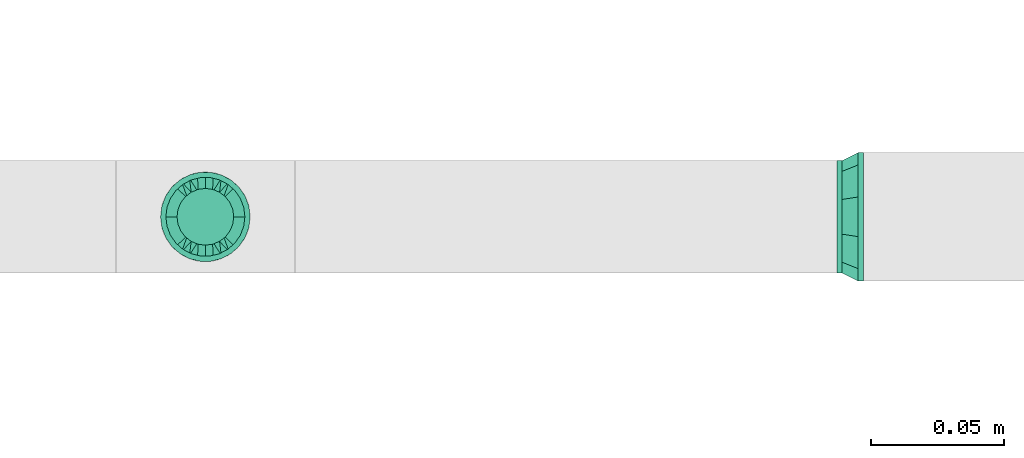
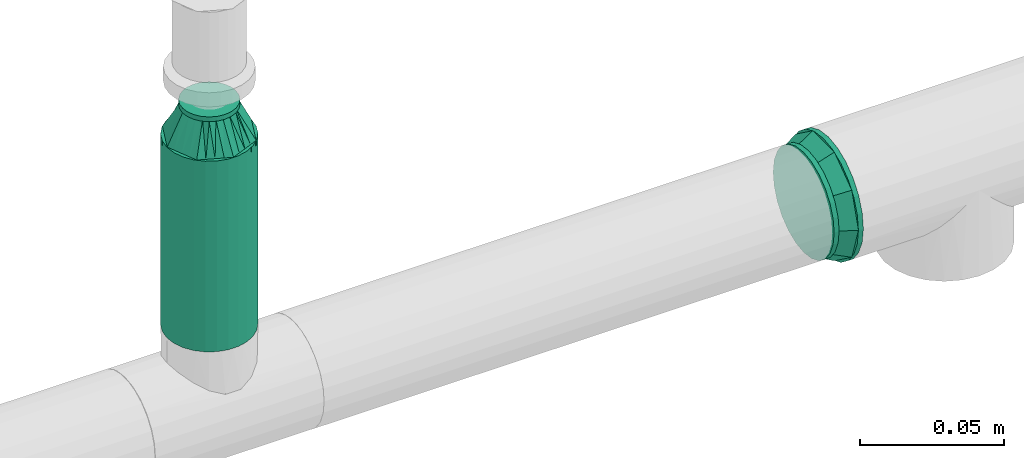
# One storey, part 72 of 94: 2 flow fittings, 1 flow segment.
"""IFC2X3 building model written with IfcOpenShell, lengths in millimetres."""

from ifc_helpers import new_model, entity, si_unit, converted_unit, derived_unit, direction, frame, origin_with_axes, origin_2d_with_axis, place, context, subcontext, project, spatial, hollow_circle, extrude, open_shell, surface_model, source, transform, mapped, type_object, element, save


model = new_model("IFC2X3")

# Units and contexts
model_context = context("Model", 3, precision=0.01, world=frame((0.0, 4.29681676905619e-09, 0.0)), true_north=direction((4.01073788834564e-13, 1.0)))
plan_context = context("Plan", 3, precision=0.01, world=frame((0.0, 4.29681676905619e-09, 0.0)), true_north=direction((4.01073788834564e-13, 1.0)))
body_context = subcontext(model_context, "Body", "Model", "MODEL_VIEW")
ifc_project = project(units=[converted_unit("PLANEANGLEUNIT", "DEGREE", entity("IfcPositiveLengthMeasure", 0.0174532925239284), si_unit("PLANEANGLEUNIT", "RADIAN"), dimensions=[0, 0, 0, 0, 0, 0, 0]), si_unit("AREAUNIT", "SQUARE_METRE"), si_unit("LENGTHUNIT", "METRE", prefix="MILLI"), si_unit("MASSUNIT", "GRAM", prefix="KILO"), si_unit("POWERUNIT", "WATT"), si_unit("PRESSUREUNIT", "PASCAL"), si_unit("FORCEUNIT", "NEWTON", prefix="KILO"), si_unit("ELECTRICCURRENTUNIT", "AMPERE"), si_unit("THERMODYNAMICTEMPERATUREUNIT", "DEGREE_CELSIUS"), si_unit("TIMEUNIT", "SECOND"), si_unit("VOLUMEUNIT", "CUBIC_METRE"), derived_unit("LINEARVELOCITYUNIT", [(si_unit("LENGTHUNIT", "METRE"), 1), (si_unit("TIMEUNIT", "SECOND"), -1)]), derived_unit("VOLUMETRICFLOWRATEUNIT", [(si_unit("VOLUMEUNIT", "CUBIC_METRE"), 1), (si_unit("TIMEUNIT", "SECOND"), -1)]), derived_unit("THERMALTRANSMITTANCEUNIT", [(si_unit("POWERUNIT", "WATT"), 1), (si_unit("THERMODYNAMICTEMPERATUREUNIT", "KELVIN"), -1), (si_unit("AREAUNIT", "SQUARE_METRE"), -1)])], contexts=[model_context, plan_context])

# Site, building, storey
site_placement = place(None, frame((0.0, -4.29681676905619e-09, 0.0), z_axis=(0.0, 0.0, 1.0), x_axis=(1.0, 0.0, 0.0)))
site = spatial("IfcSite", under=ifc_project, at=site_placement, CompositionType="ELEMENT")
building_placement = place(site_placement, frame((0.0, 4.29681676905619e-09, 0.0), z_axis=(0.0, 0.0, 1.0), x_axis=(1.0, 0.0, 0.0)))
building = spatial("IfcBuilding", under=site, at=building_placement, Name="mc-building", CompositionType="ELEMENT")
storey_placement = place(building_placement, frame((0.0, 0.0, 200300.0), z_axis=(0.0, 0.0, 1.0), x_axis=(1.0, 0.0, 0.0)))
storey = spatial("IfcBuildingStorey", under=building, at=storey_placement, Name="Nivå C", CompositionType="ELEMENT", Elevation=200300.0)

# Flow fittings
pipe_fitting_type = type_object("IfcPipeFittingType", Name="magi_pipe_fe_reducer_centric_short_NOR", PredefinedType="TRANSITION")
shared_shape_1 = source(origin_with_axes(), body_context, "Body", "SurfaceModel", [
    surface_model("IfcShellBasedSurfaceModel", [(14.4, 5.35, -9.26647), (14.4, 0.0, -10.7), (14.4, 2.76936, -10.33541), (14.4, 10.33541, -2.76936), (14.4, 7.56604, -7.56604), (14.4, -10.33541, -2.76936), (14.4, 9.26647, -5.35), (14.4, 0.0, 10.7), (14.4, -5.35, -9.26647), (14.4, -2.76936, -10.33541), (14.4, -7.56604, -7.56604), (14.4, -9.26647, -5.35), (14.4, 10.7, 0.0), (14.4, 10.33541, 2.76936), (14.4, 9.26647, 5.35), (14.4, 7.56604, 7.56604), (14.4, 2.76936, 10.33541), (14.4, 5.35, 9.26647), (14.4, -10.33541, 2.76936), (14.4, -7.56604, 7.56604), (14.4, -9.26647, 5.35), (14.4, -10.7, 0.0), (14.4, -2.76936, 10.33541), (14.4, -5.35, 9.26647), (12.4, 2.76936, 10.33541), (12.4, -10.33541, -2.76936), (12.4, 0.0, 10.7), (12.4, 5.35, 9.26647), (12.4, 7.56604, 7.56604), (12.4, 9.26647, 5.35), (12.4, 10.33541, 2.76936), (12.4, -10.33541, 2.76936), (12.4, -2.76936, 10.33541), (12.4, -7.56604, 7.56604), (12.4, -5.35, 9.26647), (12.4, -9.26647, 5.35), (12.4, -10.7, 0.0), (12.4, 10.33541, -2.76936), (12.4, 5.35, -9.26647), (12.4, 9.26647, -5.35), (12.4, 7.56604, -7.56604), (12.4, 2.76936, -10.33541), (12.4, -9.26647, -5.35), (12.4, -5.35, -9.26647), (12.4, -7.56604, -7.56604), (12.4, 0.0, -10.7), (12.4, -2.76936, -10.33541), (12.4, 10.7, 0.0), (-2.0, 11.9501, 11.9501), (-2.0, 0.0, 16.9), (-2.0, 4.37404, 16.32415), (-2.0, 8.45, 14.63583), (-2.0, 14.63583, 8.45), (-2.0, 16.32415, 4.37404), (-2.0, -16.32415, 4.37404), (-2.0, -8.45, 14.63583), (-2.0, -14.63583, 8.45), (-2.0, -11.9501, 11.9501), (-2.0, -4.37404, 16.32415), (-2.0, -16.32415, -4.37404), (-2.0, -16.9, 0.0), (-2.0, -8.45, -14.63583), (-2.0, 16.32415, -4.37404), (-2.0, 11.9501, -11.9501), (-2.0, 14.63583, -8.45), (-2.0, 8.45, -14.63583), (-2.0, 4.37404, -16.32415), (-2.0, 0.0, -16.9), (-2.0, -11.9501, -11.9501), (-2.0, -14.63583, -8.45), (-2.0, -4.37404, -16.32415), (-2.0, 16.9, 0.0), (0.0, 4.37404, -16.32415), (0.0, 8.45, -14.63583), (0.0, 11.9501, -11.9501), (0.0, 0.0, -16.9), (0.0, 16.32415, -4.37404), (0.0, 16.32415, 4.37404), (0.0, 14.63583, -8.45), (0.0, -8.45, -14.63583), (0.0, -4.37404, -16.32415), (0.0, -11.9501, -11.9501), (0.0, -16.32415, -4.37404), (0.0, -14.63583, -8.45), (0.0, -16.32415, 4.37404), (0.0, 16.9, 0.0), (0.0, 14.63583, 8.45), (0.0, 11.9501, 11.9501), (0.0, 4.37404, 16.32415), (0.0, 8.45, 14.63583), (0.0, 0.0, 16.9), (0.0, -14.63583, 8.45), (0.0, -16.9, 0.0), (0.0, -8.45, 14.63583), (0.0, -11.9501, 11.9501), (0.0, -4.37404, 16.32415), (12.4, 9.3625, -2.31662), (0.0, 14.42505, -5.97505), (0.0, 15.66253, -2.98753), (12.4, -6.6875, -6.94985), (0.0, -13.18758, -8.96258), (0.0, 2.98753, -15.66253), (12.4, 0.0, -9.26647), (12.4, 6.6875, -6.94985), (0.0, 8.96258, -13.18758), (12.4, -9.3625, -2.31662), (0.0, -15.66253, -2.98753), (0.0, -14.42505, -5.97505), (0.0, 5.97505, -14.42505), (0.0, -2.98753, -15.66253), (0.0, -8.96258, -13.18758), (0.0, 13.18758, -8.96258), (12.4, 8.025, -4.63324), (12.4, -2.675, -9.26647), (12.4, 2.675, -9.26647), (0.0, -5.97505, -14.42505), (12.4, -8.025, -4.63324), (12.4, -9.3625, 2.31662), (0.0, -14.42505, 5.97505), (0.0, -15.66253, 2.98753), (12.4, 6.6875, 6.94985), (0.0, 13.18758, 8.96258), (0.0, -2.98753, 15.66253), (12.4, 0.0, 9.26647), (12.4, -6.6875, 6.94985), (0.0, -8.96258, 13.18758), (12.4, 9.3625, 2.31662), (0.0, 15.66253, 2.98753), (0.0, 14.42505, 5.97505), (0.0, -5.97505, 14.42505), (0.0, 2.98753, 15.66253), (0.0, 8.96258, 13.18758), (0.0, -13.18758, 8.96258), (12.4, -8.025, 4.63324), (12.4, 2.675, 9.26647), (12.4, -2.675, 9.26647), (0.0, 5.97505, 14.42505), (12.4, 8.025, 4.63324)], [open_shell([[[0, 1, 2]], [[3, 0, 4]], [[5, 0, 3]], [[3, 4, 6]], [[7, 5, 3]], [[1, 8, 9]], [[1, 0, 8]], [[10, 5, 11]], [[5, 10, 8]], [[0, 5, 8]], [[3, 12, 13]], [[13, 14, 15]], [[13, 15, 16]], [[7, 3, 16]], [[16, 15, 17]], [[7, 18, 5]], [[18, 19, 20]], [[21, 5, 18]], [[19, 22, 23]], [[22, 19, 18]], [[7, 22, 18]], [[13, 16, 3]], [[24, 25, 26]], [[27, 25, 24]], [[28, 29, 30]], [[28, 25, 27]], [[31, 26, 25]], [[32, 33, 34]], [[33, 32, 31]], [[33, 31, 35]], [[32, 26, 31]], [[31, 25, 36]], [[30, 37, 28]], [[25, 28, 37]], [[38, 37, 39]], [[37, 38, 25]], [[38, 39, 40]], [[41, 25, 38]], [[42, 43, 44]], [[43, 42, 25]], [[43, 45, 46]], [[43, 25, 41]], [[41, 45, 43]], [[37, 30, 47]], [[25, 5, 36]], [[42, 11, 25]], [[8, 44, 43]], [[42, 44, 10]], [[9, 43, 46]], [[25, 11, 5]], [[5, 21, 36]], [[9, 8, 43]], [[10, 44, 8]], [[10, 11, 42]], [[1, 9, 46]], [[46, 45, 1]], [[41, 2, 45]], [[38, 0, 41]], [[6, 40, 39]], [[38, 40, 4]], [[3, 39, 37]], [[38, 4, 0]], [[0, 2, 41]], [[12, 3, 37]], [[6, 39, 3]], [[6, 4, 40]], [[47, 12, 37]], [[45, 2, 1]], [[30, 13, 47]], [[29, 14, 30]], [[17, 28, 27]], [[29, 28, 15]], [[16, 27, 24]], [[30, 14, 13]], [[13, 12, 47]], [[16, 17, 27]], [[15, 28, 17]], [[15, 14, 29]], [[7, 16, 24]], [[24, 26, 7]], [[32, 22, 26]], [[34, 23, 32]], [[20, 33, 35]], [[34, 33, 19]], [[18, 35, 31]], [[34, 19, 23]], [[23, 22, 32]], [[21, 18, 31]], [[20, 35, 18]], [[20, 19, 33]], [[36, 21, 31]], [[26, 22, 7]], [[48, 49, 50]], [[48, 50, 51]], [[48, 52, 53]], [[48, 53, 49]], [[49, 53, 54]], [[55, 56, 57]], [[55, 58, 49]], [[56, 55, 49]], [[49, 54, 56]], [[54, 59, 60]], [[54, 53, 61]], [[53, 62, 63]], [[63, 62, 64]], [[63, 65, 66]], [[61, 53, 63]], [[67, 63, 66]], [[59, 68, 69]], [[68, 59, 61]], [[61, 67, 70]], [[59, 54, 61]], [[63, 67, 61]], [[53, 71, 62]], [[72, 73, 74]], [[75, 72, 74]], [[74, 76, 77]], [[76, 74, 78]], [[74, 77, 79]], [[75, 79, 80]], [[75, 74, 79]], [[81, 82, 83]], [[82, 81, 79]], [[79, 84, 82]], [[77, 76, 85]], [[77, 86, 87]], [[77, 87, 88]], [[88, 84, 79]], [[88, 87, 89]], [[84, 88, 90]], [[90, 91, 84]], [[92, 82, 84]], [[91, 93, 94]], [[91, 90, 93]], [[93, 90, 95]], [[79, 77, 88]], [[59, 82, 60]], [[69, 83, 59]], [[79, 68, 61]], [[69, 68, 81]], [[80, 61, 70]], [[59, 83, 82]], [[82, 92, 60]], [[80, 79, 61]], [[81, 68, 79]], [[81, 83, 69]], [[75, 80, 70]], [[70, 67, 75]], [[66, 72, 67]], [[65, 73, 66]], [[78, 63, 64]], [[65, 63, 74]], [[76, 64, 62]], [[65, 74, 73]], [[73, 72, 66]], [[85, 76, 62]], [[78, 64, 76]], [[78, 74, 63]], [[71, 85, 62]], [[67, 72, 75]], [[53, 77, 71]], [[52, 86, 53]], [[89, 48, 51]], [[52, 48, 87]], [[88, 51, 50]], [[53, 86, 77]], [[77, 85, 71]], [[88, 89, 51]], [[87, 48, 89]], [[87, 86, 52]], [[90, 88, 50]], [[50, 49, 90]], [[58, 95, 49]], [[55, 93, 58]], [[91, 57, 56]], [[55, 57, 94]], [[84, 56, 54]], [[55, 94, 93]], [[93, 95, 58]], [[92, 84, 54]], [[91, 56, 84]], [[91, 94, 57]], [[60, 92, 54]], [[49, 95, 90]], [[27, 34, 47]], [[47, 34, 43]], [[43, 38, 47]], [[43, 34, 36]], [[90, 87, 94]], [[92, 94, 87]], [[87, 74, 92]], [[75, 92, 74]], [[81, 92, 75]], [[74, 87, 85]], [[96, 97, 98]], [[81, 99, 100]], [[101, 102, 75]], [[98, 85, 47]], [[74, 103, 104]], [[104, 103, 38]], [[105, 106, 107]], [[38, 108, 104]], [[102, 109, 75]], [[110, 99, 81]], [[47, 96, 98]], [[103, 111, 112]], [[109, 102, 113]], [[36, 92, 106]], [[102, 101, 114]], [[110, 115, 43]], [[96, 112, 97]], [[107, 116, 105]], [[36, 106, 105]], [[113, 115, 109]], [[43, 115, 113]], [[116, 107, 100]], [[108, 38, 114]], [[111, 103, 74]], [[111, 97, 112]], [[99, 110, 43]], [[116, 100, 99]], [[101, 108, 114]], [[117, 118, 119]], [[87, 120, 121]], [[122, 123, 90]], [[119, 92, 36]], [[94, 124, 125]], [[125, 124, 34]], [[126, 127, 128]], [[34, 129, 125]], [[123, 130, 90]], [[131, 120, 87]], [[36, 117, 119]], [[124, 132, 133]], [[130, 123, 134]], [[47, 85, 127]], [[123, 122, 135]], [[131, 136, 27]], [[117, 133, 118]], [[128, 137, 126]], [[47, 127, 126]], [[134, 136, 130]], [[27, 136, 134]], [[137, 128, 121]], [[129, 34, 135]], [[132, 124, 94]], [[132, 118, 133]], [[120, 131, 27]], [[137, 121, 120]], [[122, 129, 135]]])]),
])
flow_fitting_1_placement = place(storey_placement, frame((530500.33534, 410000.1625, 2962.64799999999), z_axis=(0.0, -1.0, 0.0), x_axis=(0.0, 0.0, 1.0)))
element("IfcFlowFitting", 1, at=flow_fitting_1_placement, inside=storey, type_object=pipe_fitting_type, Name="magi_pipe_fe_reducer_centric_short_NOR", context=body_context, shape_type="MappedRepresentation", body=[
    mapped(shared_shape_1, transform((0.0, 0.0, 0.0), scale=1.0)),
])
shared_shape_2 = source(origin_with_axes(), body_context, "Body", "SurfaceModel", [
    surface_model("IfcShellBasedSurfaceModel", [(-2.0, -10.6, -18.35974), (-2.0, 0.0, -21.2), (-2.0, -5.48696, -20.47763), (-2.0, 5.48696, -20.47763), (-2.0, 10.6, -18.35974), (-2.0, 0.0, 21.2), (-2.0, 5.48696, 20.47763), (-2.0, 10.6, 18.35974), (-2.0, 14.99066, 14.99066), (-2.0, 18.35974, 10.6), (-2.0, 20.47763, 5.48696), (-2.0, -21.2, 0.0), (-2.0, -14.99066, -14.99066), (-2.0, -5.48696, 20.47763), (-2.0, -14.99066, 14.99066), (-2.0, -10.6, 18.35974), (-2.0, -18.35974, 10.6), (-2.0, -20.47763, 5.48696), (-2.0, 20.47763, -5.48696), (-2.0, 14.99066, -14.99066), (-2.0, 18.35974, -10.6), (-2.0, -18.35974, -10.6), (-2.0, -20.47763, -5.48696), (-2.0, 21.2, 0.0), (0.0, 10.6, -18.35974), (0.0, 0.0, -21.2), (0.0, 5.48696, -20.47763), (0.0, 20.47763, -5.48696), (0.0, 14.99066, -14.99066), (0.0, -21.2, 0.0), (0.0, -14.99066, -14.99066), (0.0, 18.35974, -10.6), (0.0, -10.6, -18.35974), (0.0, -5.48696, -20.47763), (0.0, -18.35974, -10.6), (0.0, -20.47763, -5.48696), (0.0, -18.35974, 10.6), (0.0, 21.2, 0.0), (0.0, 20.47763, 5.48696), (0.0, 18.35974, 10.6), (0.0, 14.99066, 14.99066), (0.0, 0.0, 21.2), (0.0, 10.6, 18.35974), (0.0, 5.48696, 20.47763), (0.0, -14.99066, 14.99066), (0.0, -20.47763, 5.48696), (0.0, -5.48696, 20.47763), (0.0, -10.6, 18.35974), (8.0, 24.2, 0.0), (8.0, 6.26342, -23.37541), (8.0, 12.1, -20.95781), (8.0, 23.37541, -6.26342), (8.0, 17.11198, -17.11198), (8.0, 20.95781, -12.1), (8.0, -24.2, 0.0), (8.0, -12.1, -20.95781), (8.0, -6.26342, -23.37541), (8.0, 0.0, -24.2), (8.0, -17.11198, -17.11198), (8.0, -23.37541, -6.26342), (8.0, -20.95781, -12.1), (8.0, 20.95781, 12.1), (8.0, 17.11198, 17.11198), (8.0, 12.1, 20.95781), (8.0, 6.26342, 23.37541), (8.0, 0.0, 24.2), (8.0, -23.37541, 6.26342), (8.0, -17.11198, 17.11198), (8.0, -20.95781, 12.1), (8.0, -6.26342, 23.37541), (8.0, -12.1, 20.95781), (8.0, 23.37541, 6.26342), (6.0, 0.0, 24.2), (6.0, 6.26342, 23.37541), (6.0, 12.1, 20.95781), (6.0, 17.11198, 17.11198), (6.0, 6.26342, -23.37541), (6.0, 20.95781, 12.1), (6.0, -23.37541, 6.26342), (6.0, -17.11198, -17.11198), (6.0, -6.26342, 23.37541), (6.0, -17.11198, 17.11198), (6.0, -12.1, 20.95781), (6.0, -20.95781, 12.1), (6.0, -24.2, 0.0), (6.0, 23.37541, 6.26342), (6.0, 24.2, 0.0), (6.0, 23.37541, -6.26342), (6.0, 17.11198, -17.11198), (6.0, 20.95781, -12.1), (6.0, 12.1, -20.95781), (6.0, -23.37541, -6.26342), (6.0, -20.95781, -12.1), (6.0, -6.26342, -23.37541), (6.0, -12.1, -20.95781), (6.0, 0.0, -24.2), (6.0, 7.47821, 23.01557), (6.0, -7.47821, 23.01557), (6.0, 19.57821, 14.2244), (6.0, 19.57821, -14.2244), (6.0, -19.57821, 14.2244), (6.0, -19.57821, -14.2244), (6.0, 7.47821, -23.01557), (6.0, -7.47821, -23.01557), (0.0, -6.55116, 20.1624), (0.0, 6.55116, 20.1624), (0.0, -17.15116, 12.46105), (0.0, -17.15116, -12.46105), (0.0, 17.15116, 12.46105), (0.0, 17.15116, -12.46105), (0.0, -6.55116, -20.1624), (0.0, 6.55116, -20.1624), (6.0, -21.8891, -7.1122), (0.0, -19.17558, -6.23052), (0.0, -11.85116, -16.31172), (6.0, -13.52821, -18.61999), (6.0, 0.0, -23.01557), (0.0, 0.0, -20.1624), (0.0, 18.43768, -8.50153), (0.0, 19.72421, -4.54202), (6.0, 21.8891, -7.1122), (6.0, 13.52821, -18.61999), (0.0, 11.85116, -16.31172), (6.0, 21.8891, 7.1122), (0.0, 19.17558, 6.23052), (0.0, 11.85116, 16.31172), (6.0, 13.52821, 18.61999), (6.0, 0.0, 23.01557), (0.0, 0.0, 20.1624), (0.0, -18.43768, 8.50153), (0.0, -19.72421, 4.54202), (6.0, -21.8891, 7.1122), (6.0, -13.52821, 18.61999), (0.0, -11.85116, 16.31172)], [open_shell([[[0, 1, 2]], [[3, 1, 4]], [[5, 6, 7]], [[5, 7, 8]], [[8, 9, 10]], [[8, 10, 5]], [[11, 5, 12]], [[13, 14, 15]], [[13, 5, 14]], [[16, 11, 17]], [[14, 5, 16]], [[5, 11, 16]], [[5, 10, 12]], [[10, 18, 4]], [[19, 18, 20]], [[12, 10, 4]], [[4, 18, 19]], [[11, 21, 22]], [[12, 21, 11]], [[0, 12, 4]], [[1, 0, 4]], [[18, 10, 23]], [[24, 25, 26]], [[27, 24, 28]], [[29, 30, 24]], [[27, 28, 31]], [[27, 29, 24]], [[25, 32, 33]], [[25, 24, 32]], [[34, 29, 35]], [[32, 24, 30]], [[34, 30, 29]], [[36, 27, 37]], [[38, 39, 40]], [[38, 40, 41]], [[42, 43, 41]], [[42, 41, 40]], [[38, 41, 44]], [[29, 36, 45]], [[27, 36, 29]], [[44, 46, 47]], [[36, 38, 44]], [[41, 46, 44]], [[36, 37, 38]], [[22, 35, 11]], [[21, 34, 22]], [[32, 12, 0]], [[21, 12, 30]], [[33, 0, 2]], [[22, 34, 35]], [[35, 29, 11]], [[33, 32, 0]], [[30, 12, 32]], [[30, 34, 21]], [[25, 33, 2]], [[2, 1, 25]], [[3, 26, 1]], [[4, 24, 3]], [[31, 19, 20]], [[4, 19, 28]], [[27, 20, 18]], [[4, 28, 24]], [[24, 26, 3]], [[37, 27, 18]], [[31, 20, 27]], [[31, 28, 19]], [[23, 37, 18]], [[1, 26, 25]], [[10, 38, 23]], [[9, 39, 10]], [[42, 8, 7]], [[9, 8, 40]], [[43, 7, 6]], [[10, 39, 38]], [[38, 37, 23]], [[43, 42, 7]], [[40, 8, 42]], [[40, 39, 9]], [[41, 43, 6]], [[6, 5, 41]], [[13, 46, 5]], [[15, 47, 13]], [[36, 14, 16]], [[15, 14, 44]], [[45, 16, 17]], [[15, 44, 47]], [[47, 46, 13]], [[29, 45, 17]], [[36, 16, 45]], [[36, 44, 14]], [[11, 29, 17]], [[5, 46, 41]], [[48, 49, 50]], [[51, 50, 52]], [[51, 48, 50]], [[51, 52, 53]], [[49, 54, 55]], [[49, 56, 57]], [[49, 55, 56]], [[58, 59, 60]], [[58, 55, 54]], [[58, 54, 59]], [[49, 48, 61]], [[61, 62, 49]], [[49, 62, 54]], [[63, 64, 65]], [[63, 65, 62]], [[54, 62, 65]], [[66, 67, 68]], [[69, 66, 54]], [[67, 69, 70]], [[69, 67, 66]], [[54, 65, 69]], [[48, 71, 61]], [[72, 73, 74]], [[72, 74, 75]], [[76, 75, 77]], [[78, 72, 79]], [[72, 75, 79]], [[80, 81, 82]], [[80, 72, 81]], [[81, 78, 83]], [[72, 78, 81]], [[78, 79, 84]], [[76, 77, 85]], [[76, 86, 87]], [[88, 87, 89]], [[90, 76, 87]], [[90, 87, 88]], [[76, 79, 75]], [[91, 79, 92]], [[84, 79, 91]], [[76, 93, 94]], [[94, 79, 76]], [[93, 76, 95]], [[85, 86, 76]], [[91, 59, 84]], [[92, 60, 91]], [[55, 79, 94]], [[92, 79, 58]], [[56, 94, 93]], [[91, 60, 59]], [[59, 54, 84]], [[56, 55, 94]], [[58, 79, 55]], [[58, 60, 92]], [[57, 56, 93]], [[93, 95, 57]], [[76, 49, 95]], [[90, 50, 76]], [[53, 88, 89]], [[90, 88, 52]], [[51, 89, 87]], [[90, 52, 50]], [[50, 49, 76]], [[48, 51, 87]], [[53, 89, 51]], [[53, 52, 88]], [[86, 48, 87]], [[95, 49, 57]], [[85, 71, 86]], [[77, 61, 85]], [[63, 75, 74]], [[77, 75, 62]], [[64, 74, 73]], [[85, 61, 71]], [[71, 48, 86]], [[64, 63, 74]], [[62, 75, 63]], [[62, 61, 77]], [[65, 64, 73]], [[73, 72, 65]], [[80, 69, 72]], [[82, 70, 80]], [[68, 81, 83]], [[82, 81, 67]], [[66, 83, 78]], [[82, 67, 70]], [[70, 69, 80]], [[54, 66, 78]], [[68, 83, 66]], [[68, 67, 81]], [[84, 54, 78]], [[72, 69, 65]], [[96, 97, 84]], [[98, 99, 86]], [[96, 99, 98]], [[84, 97, 100]], [[84, 101, 99]], [[101, 102, 99]], [[102, 101, 103]], [[84, 99, 96]], [[104, 105, 37]], [[106, 107, 29]], [[104, 107, 106]], [[37, 105, 108]], [[37, 109, 107]], [[109, 110, 107]], [[110, 109, 111]], [[37, 107, 104]], [[112, 29, 113]], [[113, 107, 101]], [[103, 114, 110]], [[29, 112, 84]], [[113, 101, 112]], [[115, 107, 114]], [[116, 103, 110]], [[117, 102, 116]], [[102, 117, 111]], [[118, 119, 120]], [[107, 115, 101]], [[103, 115, 114]], [[111, 121, 102]], [[122, 99, 121]], [[119, 86, 120]], [[121, 111, 122]], [[119, 37, 86]], [[122, 109, 99]], [[116, 110, 117]], [[118, 99, 109]], [[99, 118, 120]], [[123, 37, 124]], [[124, 108, 98]], [[96, 125, 105]], [[37, 123, 86]], [[124, 98, 123]], [[126, 108, 125]], [[127, 96, 105]], [[128, 97, 127]], [[97, 128, 104]], [[129, 130, 131]], [[108, 126, 98]], [[96, 126, 125]], [[104, 132, 97]], [[133, 100, 132]], [[130, 84, 131]], [[132, 104, 133]], [[130, 29, 84]], [[133, 106, 100]], [[127, 105, 128]], [[129, 100, 106]], [[100, 129, 131]]])]),
])
flow_fitting_2_placement = place(storey_placement, frame((530740.53912, 410000.1625, 2850.0), z_axis=(0.0, 0.0, 1.0), x_axis=(1.0, 0.0, 0.0)))
element("IfcFlowFitting", 2, at=flow_fitting_2_placement, inside=storey, type_object=pipe_fitting_type, Name="magi_pipe_fe_reducer_centric_short_NOR", context=body_context, shape_type="MappedRepresentation", body=[
    mapped(shared_shape_2, transform((0.0, 0.0, 0.0), scale=1.0)),
])

# Flow segment
pipe_segment_type = type_object("IfcPipeSegmentType", Name="Stålrør normaltykke", PredefinedType="RIGIDSEGMENT")
shared_shape_3 = source(origin_with_axes(), body_context, "Body", "SweptSolid", [
    extrude(hollow_circle(Radius=16.9, WallThickness=2.0, at=origin_2d_with_axis()), frame((0.0, 0.0, 0.0), z_axis=(1.0, 0.0, 0.0), x_axis=(0.0, 1.0, 0.0)), (0.0, 0.0, 1.0), 80.8),
])
flow_segment_placement = place(storey_placement, frame((530500.33534, 410000.1625, 2881.79999999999), z_axis=(0.0, -1.0, 0.0), x_axis=(0.0, 0.0, 1.0)))
element("IfcFlowSegment", 3, at=flow_segment_placement, inside=storey, type_object=pipe_segment_type, Name="Stålrør normaltykke", context=body_context, shape_type="MappedRepresentation", body=[
    mapped(shared_shape_3, transform((0.0, 0.0, 0.0), scale=1.0)),
])

save(model, "model.ifc")
